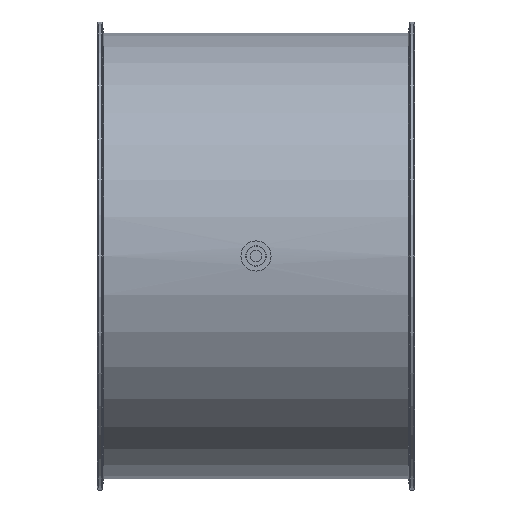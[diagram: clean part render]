
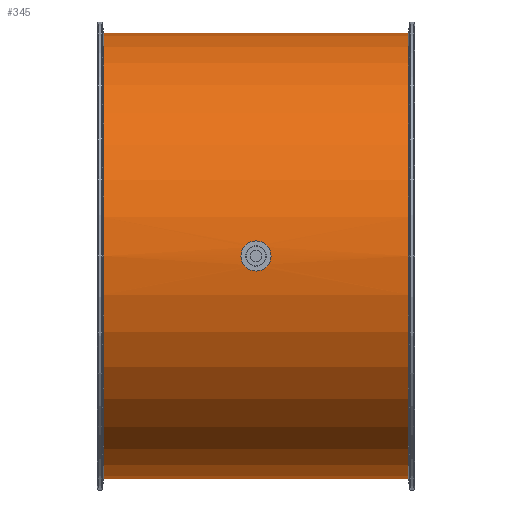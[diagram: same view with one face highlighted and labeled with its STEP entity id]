
A CAD part, front view. The second image highlights one B-rep face of the part: STEP entity #345.
In plain terms, the highlighted cylindrical face has radius 281 mm (diameter 562 mm), a full revolution.
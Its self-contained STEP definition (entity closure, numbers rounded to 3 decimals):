
#101=B_SPLINE_CURVE_WITH_KNOTS('',3,(#1429,#1430,#1431,#1432,#1433,#1434,
#1435,#1436,#1437,#1438,#1439,#1440,#1441,#1442,#1443,#1444,#1445,#1446),
 .UNSPECIFIED.,.T.,.F.,(2,2,2,2,2,2,2,2,2,2,2),(-0.125,0.,0.125,0.25,0.375,
0.5,0.625,0.75,0.875,1.,1.125),.UNSPECIFIED.);
#102=B_SPLINE_CURVE_WITH_KNOTS('',3,(#1448,#1449,#1450,#1451,#1452,#1453,
#1454,#1455,#1456,#1457,#1458,#1459,#1460,#1461,#1462,#1463,#1464,#1465),
 .UNSPECIFIED.,.T.,.F.,(2,2,2,2,2,2,2,2,2,2,2),(-0.125,0.,0.125,0.25,0.375,
0.5,0.625,0.75,0.875,1.,1.125),.UNSPECIFIED.);
#165=FACE_BOUND('',#471,.T.);
#166=FACE_BOUND('',#472,.T.);
#167=FACE_BOUND('',#473,.T.);
#168=FACE_BOUND('',#474,.T.);
#244=CYLINDRICAL_SURFACE('',#992,281.);
#286=CIRCLE('',#987,281.);
#288=CIRCLE('',#990,281.);
#345=ADVANCED_FACE('',(#165,#166,#167,#168),#244,.T.);
#471=EDGE_LOOP('',(#613));
#472=EDGE_LOOP('',(#614));
#473=EDGE_LOOP('',(#615));
#474=EDGE_LOOP('',(#616));
#613=ORIENTED_EDGE('',*,*,#838,.F.);
#614=ORIENTED_EDGE('',*,*,#840,.F.);
#615=ORIENTED_EDGE('',*,*,#841,.F.);
#616=ORIENTED_EDGE('',*,*,#842,.F.);
#756=VERTEX_POINT('',#1422);
#758=VERTEX_POINT('',#1427);
#759=VERTEX_POINT('',#1447);
#760=VERTEX_POINT('',#1466);
#838=EDGE_CURVE('',#756,#756,#286,.T.);
#840=EDGE_CURVE('',#758,#758,#288,.T.);
#841=EDGE_CURVE('',#759,#759,#101,.T.);
#842=EDGE_CURVE('',#760,#760,#102,.T.);
#987=AXIS2_PLACEMENT_3D('',#1421,#1162,#1163);
#990=AXIS2_PLACEMENT_3D('',#1426,#1168,#1169);
#992=AXIS2_PLACEMENT_3D('',#1467,#1172,#1173);
#1162=DIRECTION('',(1.,0.,0.));
#1163=DIRECTION('',(0.,0.,-1.));
#1168=DIRECTION('',(-1.,0.,0.));
#1169=DIRECTION('',(0.,0.,1.));
#1172=DIRECTION('',(1.,0.,0.));
#1173=DIRECTION('',(0.,0.,-1.));
#1421=CARTESIAN_POINT('',(192.133,-109.,125.));
#1422=CARTESIAN_POINT('',(192.133,-109.,-156.));
#1426=CARTESIAN_POINT('',(-192.133,-109.,125.));
#1427=CARTESIAN_POINT('',(-192.133,-109.,406.));
#1429=CARTESIAN_POINT('',(3.436,171.699,112.));
#1430=CARTESIAN_POINT('',(-3.436,171.699,112.));
#1431=CARTESIAN_POINT('',(-6.795,171.771,113.41));
#1432=CARTESIAN_POINT('',(-11.591,171.928,118.207));
#1433=CARTESIAN_POINT('',(-12.998,172.,121.601));
#1434=CARTESIAN_POINT('',(-13.002,172.,128.385));
#1435=CARTESIAN_POINT('',(-11.623,171.929,131.76));
#1436=CARTESIAN_POINT('',(-6.771,171.77,136.616));
#1437=CARTESIAN_POINT('',(-3.398,171.699,137.999));
#1438=CARTESIAN_POINT('',(3.389,171.699,138.001));
#1439=CARTESIAN_POINT('',(6.784,171.771,136.596));
#1440=CARTESIAN_POINT('',(11.583,171.928,131.806));
#1441=CARTESIAN_POINT('',(12.997,172.,128.443));
#1442=CARTESIAN_POINT('',(13.003,172.,121.583));
#1443=CARTESIAN_POINT('',(11.598,171.928,118.217));
#1444=CARTESIAN_POINT('',(6.802,171.771,113.413));
#1445=CARTESIAN_POINT('',(3.436,171.699,112.));
#1446=CARTESIAN_POINT('',(-3.436,171.699,112.));
#1447=CARTESIAN_POINT('',(0.,171.699,112.));
#1448=CARTESIAN_POINT('',(-3.436,-389.699,112.));
#1449=CARTESIAN_POINT('',(3.436,-389.699,112.));
#1450=CARTESIAN_POINT('',(6.795,-389.771,113.41));
#1451=CARTESIAN_POINT('',(11.591,-389.928,118.207));
#1452=CARTESIAN_POINT('',(12.998,-390.,121.601));
#1453=CARTESIAN_POINT('',(13.002,-390.,128.385));
#1454=CARTESIAN_POINT('',(11.623,-389.929,131.76));
#1455=CARTESIAN_POINT('',(6.771,-389.77,136.616));
#1456=CARTESIAN_POINT('',(3.398,-389.699,137.999));
#1457=CARTESIAN_POINT('',(-3.389,-389.699,138.001));
#1458=CARTESIAN_POINT('',(-6.784,-389.771,136.596));
#1459=CARTESIAN_POINT('',(-11.583,-389.928,131.806));
#1460=CARTESIAN_POINT('',(-12.997,-390.,128.443));
#1461=CARTESIAN_POINT('',(-13.003,-390.,121.583));
#1462=CARTESIAN_POINT('',(-11.598,-389.928,118.217));
#1463=CARTESIAN_POINT('',(-6.802,-389.771,113.413));
#1464=CARTESIAN_POINT('',(-3.436,-389.699,112.));
#1465=CARTESIAN_POINT('',(3.436,-389.699,112.));
#1466=CARTESIAN_POINT('',(0.,-389.699,112.));
#1467=CARTESIAN_POINT('',(-200.,-109.,125.));
